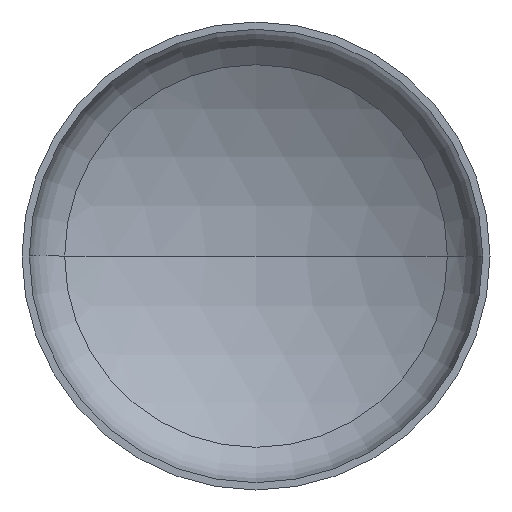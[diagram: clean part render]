
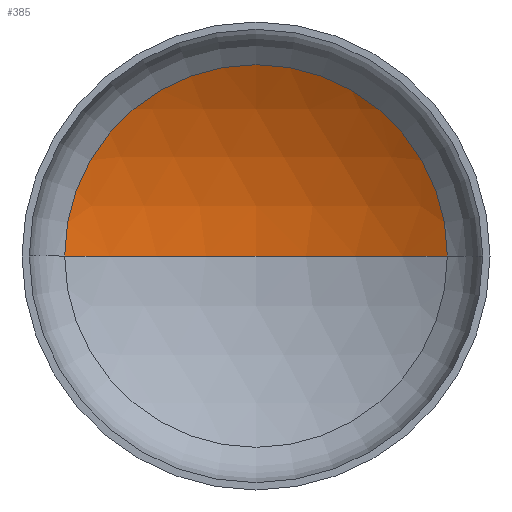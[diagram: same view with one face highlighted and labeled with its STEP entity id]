
A CAD part, front view. The second image highlights one B-rep face of the part: STEP entity #385.
In plain terms, the highlighted spherical face has radius 5600 mm.
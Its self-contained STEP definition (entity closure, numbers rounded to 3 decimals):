
#6 = DIRECTION ( 'NONE',  ( 0., 0., 1. ) ) ;
#50 = ORIENTED_EDGE ( 'NONE', *, *, #124, .T. ) ;
#64 = AXIS2_PLACEMENT_3D ( 'NONE', #226, #6, #193 ) ;
#67 = ORIENTED_EDGE ( 'NONE', *, *, #125, .T. ) ;
#70 = AXIS2_PLACEMENT_3D ( 'NONE', #189, #192, #195 ) ;
#71 = AXIS2_PLACEMENT_3D ( 'NONE', #219, #220, #206 ) ;
#76 = VERTEX_POINT ( 'NONE', #269 ) ;
#103 = VERTEX_POINT ( 'NONE', #339 ) ;
#118 = EDGE_LOOP ( 'NONE', ( #135, #67, #50 ) ) ;
#124 = EDGE_CURVE ( 'NONE', #103, #317, #238, .T. ) ;
#125 = EDGE_CURVE ( 'NONE', #76, #103, #179, .T. ) ;
#127 = EDGE_CURVE ( 'NONE', #76, #317, #409, .T. ) ;
#135 = ORIENTED_EDGE ( 'NONE', *, *, #127, .F. ) ;
#158 = DIRECTION ( 'NONE',  ( -1., 0., 0. ) ) ;
#159 = CARTESIAN_POINT ( 'NONE',  ( -2861.947, 1003.307, 0. ) ) ;
#179 = CIRCLE ( 'NONE', #70, 5600. ) ;
#189 = CARTESIAN_POINT ( 'NONE',  ( 0., -3810.138, 0. ) ) ;
#192 = DIRECTION ( 'NONE',  ( 0., 0., -1. ) ) ;
#193 = DIRECTION ( 'NONE',  ( 1., 0., 0. ) ) ;
#195 = DIRECTION ( 'NONE',  ( -1., 0., 0. ) ) ;
#206 = DIRECTION ( 'NONE',  ( 1., 0., 0. ) ) ;
#219 = CARTESIAN_POINT ( 'NONE',  ( 0., 1003.307, 0. ) ) ;
#220 = DIRECTION ( 'NONE',  ( 0., -1., 0. ) ) ;
#225 = CARTESIAN_POINT ( 'NONE',  ( 0., -3810.138, 0. ) ) ;
#226 = CARTESIAN_POINT ( 'NONE',  ( 0., -3810.138, 0. ) ) ;
#238 = CIRCLE ( 'NONE', #71, 2861.947 ) ;
#269 = CARTESIAN_POINT ( 'NONE',  ( 0., 1789.862, 0. ) ) ;
#304 = FACE_OUTER_BOUND ( 'NONE', #118, .T. ) ;
#317 = VERTEX_POINT ( 'NONE', #159 ) ;
#324 = AXIS2_PLACEMENT_3D ( 'NONE', #225, #367, #158 ) ;
#339 = CARTESIAN_POINT ( 'NONE',  ( 2861.947, 1003.307, 0. ) ) ;
#367 = DIRECTION ( 'NONE',  ( 0., 0., -1. ) ) ;
#368 = SPHERICAL_SURFACE ( 'NONE', #324, 5600. ) ;
#385 = ADVANCED_FACE ( 'NONE', ( #304 ), #368, .F. ) ;
#409 = CIRCLE ( 'NONE', #64, 5600. ) ;
